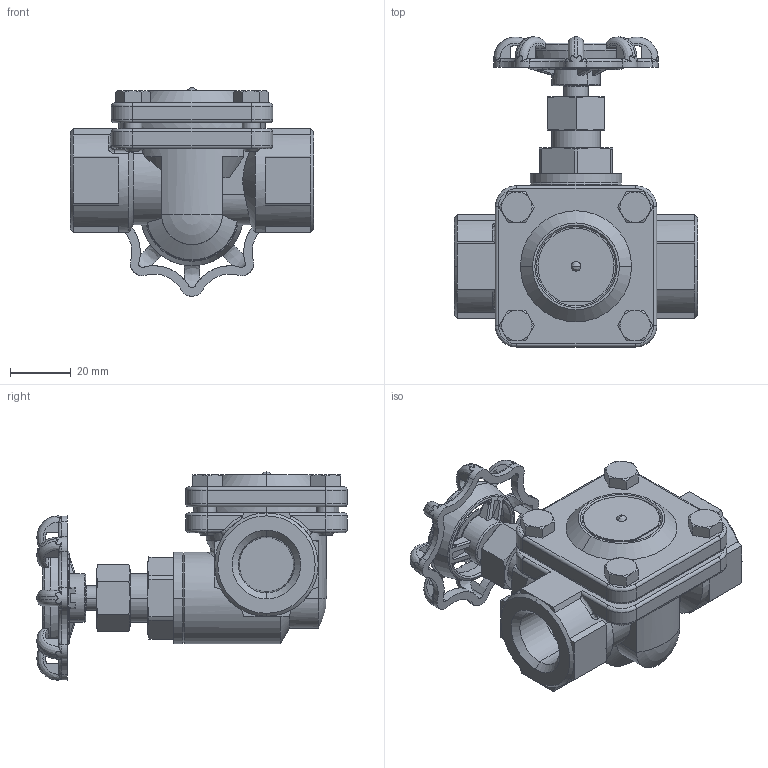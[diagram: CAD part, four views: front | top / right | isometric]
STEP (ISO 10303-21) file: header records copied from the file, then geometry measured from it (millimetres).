
FILE_DESCRIPTION( (''), '2;1');
FILE_NAME ('PC1276.2356.TS-5BP 15A_3820.stp','2025-09-19T09:32:10',(''),(''),'spGate 20.6.3 (****-****-****-****)','','');
FILE_SCHEMA (('AUTOMOTIVE_DESIGN'));
Length unit declared in the file: millimetre
Bounding box: 80 x 101.9 x 68.5 mm (x, y, z)
Volume: 130607.7 mm3; surface area: 33649.6 mm2
Topology: 1 solids, 1 shells, 674 faces, 1798 edges, 1105 vertices
Faces by surface type: bspline 301, plane 218, cylinder 154, sphere 1
Entity records: 42170 total; most frequent: CARTESIAN_POINT 13906, ORIENTED_EDGE 3546, DIRECTION 2508, COLOUR_RGB 2448, PRESENTATION_STYLE_ASSIGNMENT 2448, STYLED_ITEM 2448, EDGE_CURVE 1773, DRAUGHTING_PRE_DEFINED_CURVE_FONT 1773
